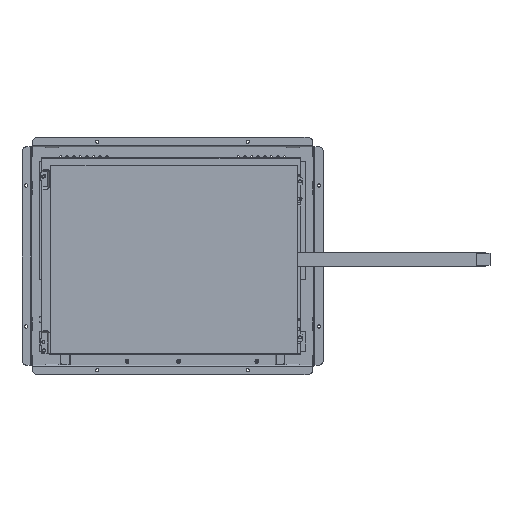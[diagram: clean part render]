
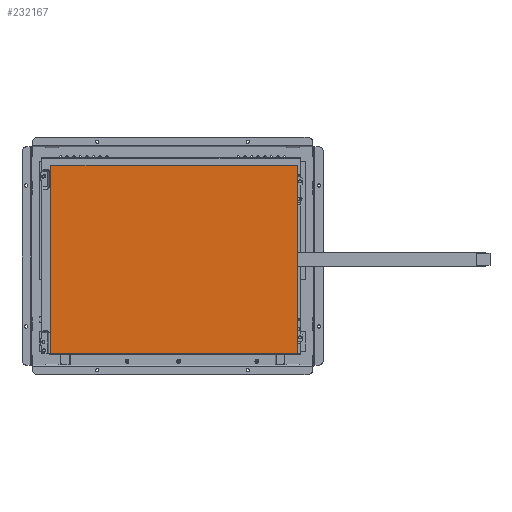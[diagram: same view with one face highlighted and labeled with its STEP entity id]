
A CAD part, top view. The second image highlights one B-rep face of the part: STEP entity #232167.
In plain terms, the highlighted planar face has unit normal (0, 0, 1).
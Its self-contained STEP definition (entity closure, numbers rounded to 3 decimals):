
#3691 = ORIENTED_EDGE ( 'NONE', *, *, #177943, .T. ) ;
#22093 = DIRECTION ( 'NONE',  ( -1., 0., 0. ) ) ;
#26820 = CARTESIAN_POINT ( 'NONE',  ( 132.5, -103.4, 32.633 ) ) ;
#30388 = VECTOR ( 'NONE', #22093, 1000. ) ;
#33913 = VECTOR ( 'NONE', #166843, 1000. ) ;
#36864 = LINE ( 'NONE', #219458, #223436 ) ;
#40047 = ORIENTED_EDGE ( 'NONE', *, *, #104062, .T. ) ;
#40994 = DIRECTION ( 'NONE',  ( 0., 0., 1. ) ) ;
#56169 = VERTEX_POINT ( 'NONE', #26820 ) ;
#62496 = LINE ( 'NONE', #165041, #104868 ) ;
#70843 = ORIENTED_EDGE ( 'NONE', *, *, #149693, .T. ) ;
#75980 = CARTESIAN_POINT ( 'NONE',  ( 132.5, -103.4, 32.633 ) ) ;
#92960 = DIRECTION ( 'NONE',  ( 1., 0., 0. ) ) ;
#100512 = ORIENTED_EDGE ( 'NONE', *, *, #219877, .T. ) ;
#104062 = EDGE_CURVE ( 'NONE', #56169, #179740, #124392, .T. ) ;
#104868 = VECTOR ( 'NONE', #183186, 1000. ) ;
#110064 = FACE_OUTER_BOUND ( 'NONE', #175212, .T. ) ;
#112103 = CARTESIAN_POINT ( 'NONE',  ( 132.5, 96.4, 32.633 ) ) ;
#124392 = LINE ( 'NONE', #75980, #33913 ) ;
#130287 = CARTESIAN_POINT ( 'NONE',  ( 132.5, 96.4, 32.633 ) ) ;
#149112 = PLANE ( 'NONE',  #186291 ) ;
#149693 = EDGE_CURVE ( 'NONE', #175070, #56169, #36864, .T. ) ;
#165041 = CARTESIAN_POINT ( 'NONE',  ( -129.3, -103.4, 32.633 ) ) ;
#166843 = DIRECTION ( 'NONE',  ( 0., 1., 0. ) ) ;
#167402 = DIRECTION ( 'NONE',  ( 0., 1., 0. ) ) ;
#174563 = LINE ( 'NONE', #112103, #30388 ) ;
#175070 = VERTEX_POINT ( 'NONE', #186834 ) ;
#175212 = EDGE_LOOP ( 'NONE', ( #40047, #100512, #3691, #70843 ) ) ;
#177943 = EDGE_CURVE ( 'NONE', #205916, #175070, #62496, .T. ) ;
#179740 = VERTEX_POINT ( 'NONE', #213759 ) ;
#183186 = DIRECTION ( 'NONE',  ( 0., -1., 0. ) ) ;
#186291 = AXIS2_PLACEMENT_3D ( 'NONE', #130287, #40994, #167402 ) ;
#186834 = CARTESIAN_POINT ( 'NONE',  ( -129.3, -103.4, 32.633 ) ) ;
#191141 = CARTESIAN_POINT ( 'NONE',  ( -129.3, 96.4, 32.633 ) ) ;
#205916 = VERTEX_POINT ( 'NONE', #191141 ) ;
#213759 = CARTESIAN_POINT ( 'NONE',  ( 132.5, 96.4, 32.633 ) ) ;
#219458 = CARTESIAN_POINT ( 'NONE',  ( 132.5, -103.4, 32.633 ) ) ;
#219877 = EDGE_CURVE ( 'NONE', #179740, #205916, #174563, .T. ) ;
#223436 = VECTOR ( 'NONE', #92960, 1000. ) ;
#232167 = ADVANCED_FACE ( 'NONE', ( #110064 ), #149112, .T. ) ;
